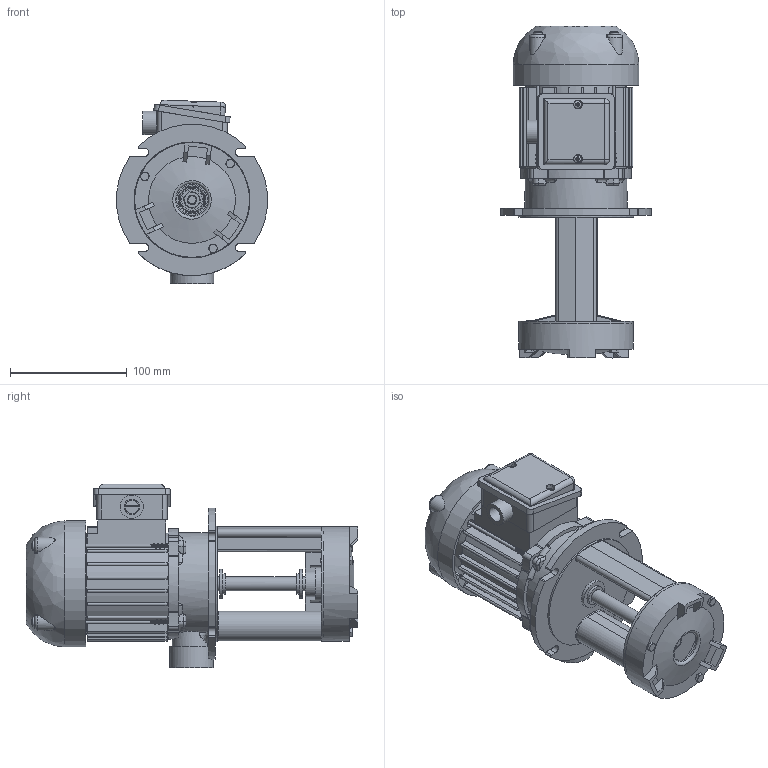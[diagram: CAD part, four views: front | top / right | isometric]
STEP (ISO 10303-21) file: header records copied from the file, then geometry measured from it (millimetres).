
FILE_DESCRIPTION(/* description */ (''),/* implementation_level */ '2;1');
FILE_NAME(/* name */ 'P:\3D PER CLIENTI\POMPE\SPV\YT56SVB++120.stp',/* time_stamp */ '2018-10-31T15:19:17+01:00',/* author */ ('vgiaretta'),/* organization */ (''),/* preprocessor_version */ 'ST-DEVELOPER v17.2',/* originating_system */ 'Autodesk Inventor 2019',/* authorisation */ '');
FILE_SCHEMA (('AUTOMOTIVE_DESIGN { 1 0 10303 214 3 1 1 }'));
Products named in the file (1): YT56SVB++120_iLogic_Shrinkwrap
Bounding box: 129.52 x 284.79 x 157.58 mm (x, y, z)
Volume: 660734.5 mm3; surface area: 334934.4 mm2
Topology: 14 solids, 16 shells, 1386 faces, 3800 edges, 2518 vertices
Faces by surface type: plane 814, cylinder 370, cone 95, bspline 65, torus 36, sphere 6
Full cylindrical faces by diameter (mm): 2.56 x44, 3.5 x8, 3.8 x4, 4 x6, 4.5 x3, 4.58 x4, 6.03 x3, 6.5 x4, 7 x4, 7.5 x2, 7.9 x4, 8 x2, 8.5 x2, 8.6 x4, 11.3 x1, 11.5 x2, 11.95 x8, 12 x3, 12.004 x1, 12.005 x1, 13.376 x1, 14 x2, 14.4 x1, 15.77 x1, 16.16 x1, 17.4 x2, 20 x2, 20.16 x1, 22 x3, 24.117 x1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
Entity records: 54126 total; most frequent: CARTESIAN_POINT 17419, ORIENTED_EDGE 7594, DIRECTION 7091, EDGE_CURVE 3797, AXIS2_PLACEMENT_3D 2551, VERTEX_POINT 2529, LINE 1989, VECTOR 1989
